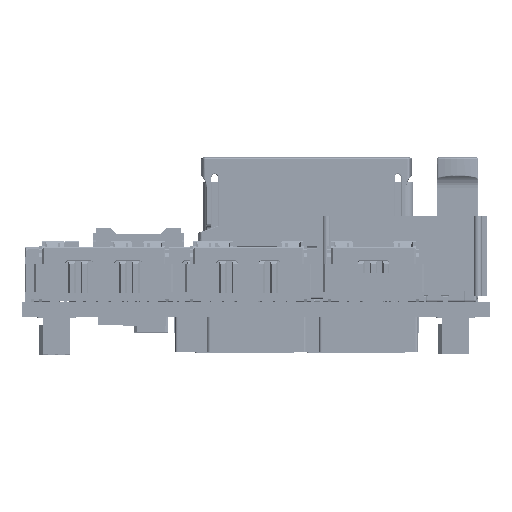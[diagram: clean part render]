
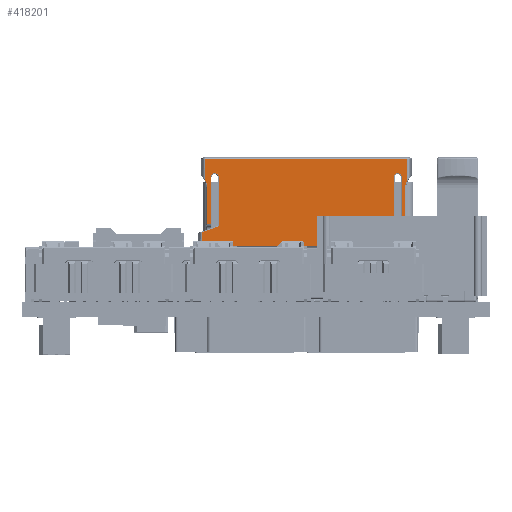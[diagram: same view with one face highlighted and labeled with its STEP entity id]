
A CAD part, top view. The second image highlights one B-rep face of the part: STEP entity #418201.
In plain terms, the highlighted planar face has unit normal (0, 0, 1) as drawn and (0, 1, 0) by its records, which use the part's own axes.
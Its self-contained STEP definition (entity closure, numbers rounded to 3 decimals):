
#406246=DIRECTION('',(1.,0.,0.));
#406247=VECTOR('',#406246,24.482);
#406248=CARTESIAN_POINT('',(-3.351,2.45,-10.4));
#406249=LINE('',#406248,#406247);
#406424=DIRECTION('',(0.,0.,-1.));
#406425=VECTOR('',#406424,1.606);
#406426=CARTESIAN_POINT('',(-3.351,2.45,-8.794));
#406427=LINE('',#406426,#406425);
#406438=DIRECTION('',(0.94,0.,-0.342));
#406439=VECTOR('',#406438,1.811);
#406440=CARTESIAN_POINT('',(19.429,2.45,-8.174));
#406441=LINE('',#406440,#406439);
#406445=CARTESIAN_POINT('',(19.292,2.45,-8.55));
#406446=DIRECTION('',(0.,1.,0.));
#406447=DIRECTION('',(0.069,0.,0.998));
#406448=AXIS2_PLACEMENT_3D('',#406445,#406446,#406447);
#406453=CARTESIAN_POINT('',(19.33,2.45,-8.001));
#406454=DIRECTION('',(0.,-1.,0.));
#406455=DIRECTION('',(-1.,0.,0.));
#406456=AXIS2_PLACEMENT_3D('',#406453,#406454,#406455);
#406461=CARTESIAN_POINT('',(19.655,2.45,-2.325));
#406462=DIRECTION('',(0.,-1.,0.));
#406463=DIRECTION('',(1.,0.,0.));
#406464=AXIS2_PLACEMENT_3D('',#406461,#406462,#406463);
#406469=CARTESIAN_POINT('',(22.63,2.45,-3.6));
#406470=DIRECTION('',(0.,-1.,0.));
#406471=DIRECTION('',(-0.89,0.,0.457));
#406472=AXIS2_PLACEMENT_3D('',#406469,#406470,#406471);
#406477=CARTESIAN_POINT('',(-4.85,2.45,-3.6));
#406478=DIRECTION('',(0.,-1.,0.));
#406479=DIRECTION('',(1.,0.,0.));
#406480=AXIS2_PLACEMENT_3D('',#406477,#406478,#406479);
#406485=CARTESIAN_POINT('',(-1.875,2.45,-2.325));
#406486=DIRECTION('',(0.,-1.,0.));
#406487=DIRECTION('',(1.,0.,0.));
#406488=AXIS2_PLACEMENT_3D('',#406485,#406486,#406487);
#406493=CARTESIAN_POINT('',(-1.55,2.45,-8.001));
#406494=DIRECTION('',(0.,-1.,0.));
#406495=DIRECTION('',(0.069,0.,-0.998));
#406496=AXIS2_PLACEMENT_3D('',#406493,#406494,#406495);
#406501=CARTESIAN_POINT('',(-1.512,2.45,-8.55));
#406502=DIRECTION('',(0.,1.,0.));
#406503=DIRECTION('',(-0.342,0.,0.94));
#406504=AXIS2_PLACEMENT_3D('',#406501,#406502,#406503);
#406509=DIRECTION('',(0.94,0.,0.342));
#406510=VECTOR('',#406509,1.811);
#406511=CARTESIAN_POINT('',(-3.351,2.45,-8.794));
#406512=LINE('',#406511,#406510);
#406523=DIRECTION('',(0.,0.,1.));
#406524=VECTOR('',#406523,1.606);
#406525=CARTESIAN_POINT('',(21.131,2.45,-10.4));
#406526=LINE('',#406525,#406524);
#406641=DIRECTION('',(0.,0.,1.));
#406642=VECTOR('',#406641,5.676);
#406643=CARTESIAN_POINT('',(19.18,2.45,-8.001));
#406644=LINE('',#406643,#406642);
#406687=DIRECTION('',(0.,0.,-1.));
#406688=VECTOR('',#406687,5.475);
#406689=CARTESIAN_POINT('',(20.13,2.45,-2.325));
#406690=LINE('',#406689,#406688);
#409228=DIRECTION('',(-1.,0.,0.));
#409229=VECTOR('',#409228,23.744);
#409230=CARTESIAN_POINT('',(20.762,2.45,-0.2));
#409231=LINE('',#409230,#409229);
#409309=DIRECTION('',(0.,0.,1.));
#409310=VECTOR('',#409309,2.441);
#409311=CARTESIAN_POINT('',(20.762,2.45,
-2.641));
#409312=LINE('',#409311,#409310);
#409397=DIRECTION('',(0.,0.,1.));
#409398=VECTOR('',#409397,4.2);
#409399=CARTESIAN_POINT('',(20.53,2.45,-7.8));
#409400=LINE('',#409399,#409398);
#409442=DIRECTION('',(1.,0.,0.));
#409443=VECTOR('',#409442,0.4);
#409444=CARTESIAN_POINT('',(20.13,2.45,-7.8));
#409445=LINE('',#409444,#409443);
#409693=DIRECTION('',(0.,0.,-1.));
#409694=VECTOR('',#409693,2.441);
#409695=CARTESIAN_POINT('',(-2.982,2.45,-0.2));
#409696=LINE('',#409695,#409694);
#410572=DIRECTION('',(0.,0.,-1.));
#410573=VECTOR('',#410572,5.676);
#410574=CARTESIAN_POINT('',(-1.4,2.45,-2.325));
#410575=LINE('',#410574,#410573);
#410618=DIRECTION('',(0.,0.,1.));
#410619=VECTOR('',#410618,5.475);
#410620=CARTESIAN_POINT('',(-2.35,2.45,-7.8));
#410621=LINE('',#410620,#410619);
#410872=DIRECTION('',(1.,0.,0.));
#410873=VECTOR('',#410872,0.4);
#410874=CARTESIAN_POINT('',(-2.75,2.45,-7.8));
#410875=LINE('',#410874,#410873);
#410917=DIRECTION('',(0.,0.,-1.));
#410918=VECTOR('',#410917,4.2);
#410919=CARTESIAN_POINT('',(-2.75,2.45,-3.6));
#410920=LINE('',#410919,#410918);
#416028=CARTESIAN_POINT('',(-3.351,2.45,-10.4));
#416029=CARTESIAN_POINT('',(21.131,2.45,-10.4));
#416030=VERTEX_POINT('',#416028);
#416031=VERTEX_POINT('',#416029);
#416032=CARTESIAN_POINT('',(-3.351,2.45,-8.794));
#416033=VERTEX_POINT('',#416032);
#416034=CARTESIAN_POINT('',(-1.649,2.45,-8.174));
#416035=VERTEX_POINT('',#416034);
#416036=CARTESIAN_POINT('',(-1.54,2.45,-8.151));
#416037=VERTEX_POINT('',#416036);
#416038=CARTESIAN_POINT('',(-1.4,2.45,-8.001));
#416039=VERTEX_POINT('',#416038);
#416040=CARTESIAN_POINT('',(-1.4,2.45,-2.325));
#416041=VERTEX_POINT('',#416040);
#416042=CARTESIAN_POINT('',(-2.35,2.45,-2.325));
#416043=VERTEX_POINT('',#416042);
#416044=CARTESIAN_POINT('',(-2.35,2.45,-7.8));
#416045=VERTEX_POINT('',#416044);
#416046=CARTESIAN_POINT('',(-2.75,2.45,-7.8));
#416047=VERTEX_POINT('',#416046);
#416048=CARTESIAN_POINT('',(-2.75,2.45,-3.6));
#416049=VERTEX_POINT('',#416048);
#416050=CARTESIAN_POINT('',(-2.982,2.45,-2.641));
#416051=VERTEX_POINT('',#416050);
#416052=CARTESIAN_POINT('',(-2.982,2.45,-0.2));
#416053=VERTEX_POINT('',#416052);
#416054=CARTESIAN_POINT('',(20.762,2.45,-0.2));
#416055=VERTEX_POINT('',#416054);
#416056=CARTESIAN_POINT('',(20.762,2.45,
-2.641));
#416057=VERTEX_POINT('',#416056);
#416058=CARTESIAN_POINT('',(20.53,2.45,-3.6));
#416059=VERTEX_POINT('',#416058);
#416060=CARTESIAN_POINT('',(20.53,2.45,-7.8));
#416061=VERTEX_POINT('',#416060);
#416062=CARTESIAN_POINT('',(20.13,2.45,-7.8));
#416063=VERTEX_POINT('',#416062);
#416064=CARTESIAN_POINT('',(20.13,2.45,-2.325));
#416065=VERTEX_POINT('',#416064);
#416066=CARTESIAN_POINT('',(19.18,2.45,-2.325));
#416067=VERTEX_POINT('',#416066);
#416068=CARTESIAN_POINT('',(19.18,2.45,-8.001));
#416069=VERTEX_POINT('',#416068);
#416070=CARTESIAN_POINT('',(19.32,2.45,-8.151));
#416071=VERTEX_POINT('',#416070);
#416072=CARTESIAN_POINT('',(19.429,2.45,-8.174));
#416073=VERTEX_POINT('',#416072);
#416074=CARTESIAN_POINT('',(21.131,2.45,-8.794));
#416075=VERTEX_POINT('',#416074);
#418148=CARTESIAN_POINT('',(1.27,2.45,-10.5));
#418149=DIRECTION('',(0.,1.,0.));
#418150=DIRECTION('',(0.,0.,1.));
#418151=AXIS2_PLACEMENT_3D('',#418148,#418149,#418150);
#418152=PLANE('',#418151);
#418153=ORIENTED_EDGE('',*,*,#417986,.T.);
#418155=ORIENTED_EDGE('',*,*,#418154,.T.);
#418157=ORIENTED_EDGE('',*,*,#418156,.F.);
#418159=ORIENTED_EDGE('',*,*,#418158,.F.);
#418161=ORIENTED_EDGE('',*,*,#418160,.F.);
#418163=ORIENTED_EDGE('',*,*,#418162,.T.);
#418165=ORIENTED_EDGE('',*,*,#418164,.F.);
#418167=ORIENTED_EDGE('',*,*,#418166,.T.);
#418169=ORIENTED_EDGE('',*,*,#418168,.T.);
#418171=ORIENTED_EDGE('',*,*,#418170,.T.);
#418173=ORIENTED_EDGE('',*,*,#418172,.F.);
#418175=ORIENTED_EDGE('',*,*,#418174,.T.);
#418177=ORIENTED_EDGE('',*,*,#418176,.T.);
#418179=ORIENTED_EDGE('',*,*,#418178,.T.);
#418181=ORIENTED_EDGE('',*,*,#418180,.F.);
#418183=ORIENTED_EDGE('',*,*,#418182,.T.);
#418185=ORIENTED_EDGE('',*,*,#418184,.T.);
#418187=ORIENTED_EDGE('',*,*,#418186,.T.);
#418189=ORIENTED_EDGE('',*,*,#418188,.F.);
#418191=ORIENTED_EDGE('',*,*,#418190,.T.);
#418193=ORIENTED_EDGE('',*,*,#418192,.F.);
#418195=ORIENTED_EDGE('',*,*,#418194,.F.);
#418197=ORIENTED_EDGE('',*,*,#418196,.F.);
#418198=ORIENTED_EDGE('',*,*,#418139,.T.);
#418199=EDGE_LOOP('',(#418153,#418155,#418157,#418159,#418161,#418163,#418165,
#418167,#418169,#418171,#418173,#418175,#418177,#418179,#418181,#418183,#418185,
#418187,#418189,#418191,#418193,#418195,#418197,#418198));
#418200=FACE_OUTER_BOUND('',#418199,.F.);
#418201=ADVANCED_FACE('',(#418200),#418152,.T.);
#406449=CIRCLE('',#406448,0.4);
#406457=CIRCLE('',#406456,0.15);
#406465=CIRCLE('',#406464,0.475);
#406473=CIRCLE('',#406472,2.1);
#406481=CIRCLE('',#406480,2.1);
#406489=CIRCLE('',#406488,0.475);
#406497=CIRCLE('',#406496,0.15);
#406505=CIRCLE('',#406504,0.4);
#417986=EDGE_CURVE('',#416030,#416031,#406249,.T.);
#418139=EDGE_CURVE('',#416033,#416030,#406427,.T.);
#418154=EDGE_CURVE('',#416031,#416075,#406526,.T.);
#418156=EDGE_CURVE('',#416073,#416075,#406441,.T.);
#418158=EDGE_CURVE('',#416071,#416073,#406449,.T.);
#418160=EDGE_CURVE('',#416069,#416071,#406457,.T.);
#418162=EDGE_CURVE('',#416069,#416067,#406644,.T.);
#418164=EDGE_CURVE('',#416065,#416067,#406465,.T.);
#418166=EDGE_CURVE('',#416065,#416063,#406690,.T.);
#418168=EDGE_CURVE('',#416063,#416061,#409445,.T.);
#418170=EDGE_CURVE('',#416061,#416059,#409400,.T.);
#418172=EDGE_CURVE('',#416057,#416059,#406473,.T.);
#418174=EDGE_CURVE('',#416057,#416055,#409312,.T.);
#418176=EDGE_CURVE('',#416055,#416053,#409231,.T.);
#418178=EDGE_CURVE('',#416053,#416051,#409696,.T.);
#418180=EDGE_CURVE('',#416049,#416051,#406481,.T.);
#418182=EDGE_CURVE('',#416049,#416047,#410920,.T.);
#418184=EDGE_CURVE('',#416047,#416045,#410875,.T.);
#418186=EDGE_CURVE('',#416045,#416043,#410621,.T.);
#418188=EDGE_CURVE('',#416041,#416043,#406489,.T.);
#418190=EDGE_CURVE('',#416041,#416039,#410575,.T.);
#418192=EDGE_CURVE('',#416037,#416039,#406497,.T.);
#418194=EDGE_CURVE('',#416035,#416037,#406505,.T.);
#418196=EDGE_CURVE('',#416033,#416035,#406512,.T.);
